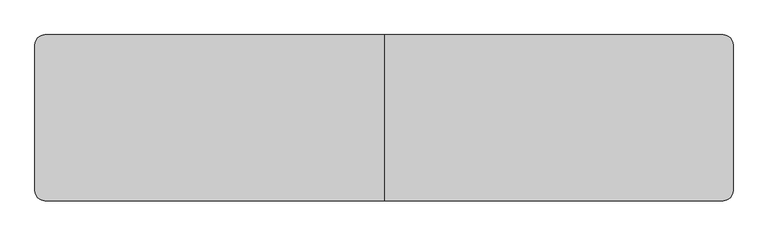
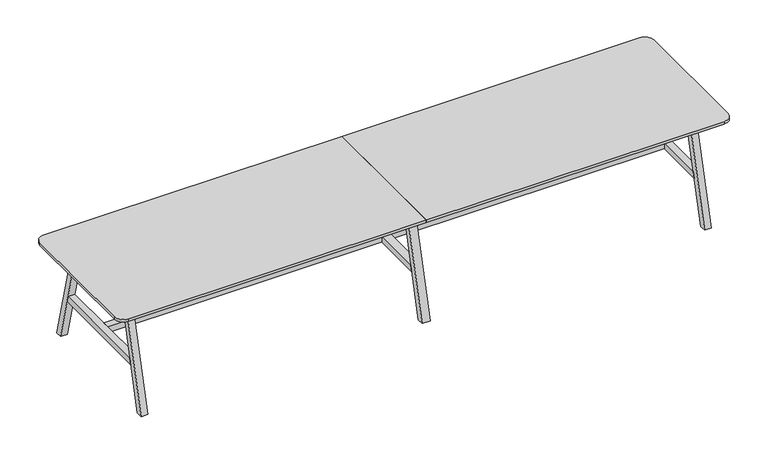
"""IFC4 building model written with IfcOpenShell, lengths in millimetres: furniture geometry, BDG_BossDesign_Tbls_AgentTables6Legs : AGE-DT-6L-4200-1000-3D."""

from ifc_helpers import new_model, si_unit, point, frame, frame_2d, origin, place, context, project, spatial, polyline, circle_curve, trimmed, segment, composite_curve, outline, extrude, source, transform, mapped, element, save


def furniture_ae4a0ddc(model_context):
    return source(origin(), model_context, "Body", "SweptSolid", [
        extrude(outline(polyline([(500.0, 0.0), (454.9999949, 0.0), (285.5, 660.0), (330.5000051, 660.0), (500.0, 0.0)])), frame((-27.5, 0.0, 0.0), z_axis=(1.0, 0.0, 0.0), x_axis=(0.0, 1.0, 0.0)), (0.0, 0.0, 1.0), 55.0),
        extrude(outline(polyline([(-500.0, 0.0), (-330.5000051, 660.0), (-285.5, 660.0), (-454.9999949, 0.0), (-500.0, 0.0)])), frame((-27.5, 0.0, 0.0), z_axis=(1.0, 0.0, 0.0), x_axis=(0.0, 1.0, 0.0)), (0.0, 0.0, 1.0), 55.0),
        extrude(outline(polyline([(377.9545427, 300.0), (-377.9545427, 300.0), (-366.3977249, 345.0), (366.3977249, 345.0), (377.9545427, 300.0)])), frame((-27.5, 0.0, 0.0), z_axis=(1.0, 0.0, 0.0), x_axis=(0.0, 1.0, 0.0)), (0.0, 0.0, 1.0), 55.0),
        extrude(outline(composite_curve([segment(polyline([(0.0, 500.0), (0.0, -500.0), (-2040.0, -500.0)]), True, "CONTINUOUS"), segment(trimmed(circle_curve(frame_2d((-2040.0, -440.0)), 60.0), [point((-2040.0, -500.0))], [point((-2100.0, -440.0))], False, "CARTESIAN"), True, "CONTINUOUS"), segment(polyline([(-2100.0, -440.0), (-2100.0, 440.0)]), True, "CONTINUOUS"), segment(trimmed(circle_curve(frame_2d((-2040.0, 440.0)), 60.0), [point((-2100.0, 440.0))], [point((-2040.0, 500.0))], False, "CARTESIAN"), True, "CONTINUOUS"), segment(polyline([(-2040.0, 500.0), (0.0, 500.0)]), True, "CONTINUOUS")], self_intersect=False)), frame((0.0, 0.0, 722.0), z_axis=(0.0, 0.0, 1.0), x_axis=(1.0, 0.0, 0.0)), (0.0, 0.0, 1.0), 18.0),
        extrude(outline(polyline([(-366.3977249, 345.0), (366.3977249, 345.0), (377.9545427, 300.0), (-377.9545427, 300.0), (-366.3977249, 345.0)])), frame((1905.0, 0.0, 0.0), z_axis=(1.0, 0.0, 0.0), x_axis=(0.0, 1.0, 0.0)), (0.0, 0.0, 1.0), 45.0),
        extrude(outline(polyline([(500.0, 0.0), (454.9999949, 0.0), (285.5, 660.0), (330.5000051, 660.0), (500.0, 0.0)])), frame((-1950.0, 0.0, 0.0), z_axis=(1.0, 0.0, 0.0), x_axis=(0.0, 1.0, 0.0)), (0.0, 0.0, 1.0), 45.0),
        extrude(outline(polyline([(-500.0, 0.0), (-330.5000051, 660.0), (-285.5, 660.0), (-454.9999949, 0.0), (-500.0, 0.0)])), frame((-1950.0, 0.0, 0.0), z_axis=(1.0, 0.0, 0.0), x_axis=(0.0, 1.0, 0.0)), (0.0, 0.0, 1.0), 45.0),
        extrude(outline(polyline([(-366.3977249, 345.0), (366.3977249, 345.0), (377.9545427, 300.0), (-377.9545427, 300.0), (-366.3977249, 345.0)])), frame((-1950.0, 0.0, 0.0), z_axis=(1.0, 0.0, 0.0), x_axis=(0.0, 1.0, 0.0)), (0.0, 0.0, 1.0), 45.0),
        extrude(outline(polyline([(-326.6006165, 634.973938), (-304.2770691, 722.0), (-279.5, 722.0), (-301.8235474, 634.973938), (-326.6006165, 634.973938)])), frame((-1905.0, 0.0, 0.0), z_axis=(1.0, 0.0, 0.0), x_axis=(0.0, 1.0, 0.0)), (0.0, 0.0, 1.0), 3810.0),
        extrude(outline(polyline([(326.6006165, 634.973938), (301.8235474, 634.973938), (279.5, 722.0), (304.2770691, 722.0), (326.6006165, 634.973938)])), frame((-1905.0, 0.0, 0.0), z_axis=(1.0, 0.0, 0.0), x_axis=(0.0, 1.0, 0.0)), (0.0, 0.0, 1.0), 3810.0),
        extrude(outline(polyline([(499.7999878, 0.0), (454.7999827, 0.0), (285.5, 660.0), (330.5000051, 660.0), (499.7999878, 0.0)])), frame((1905.0, 0.0, 0.0), z_axis=(1.0, 0.0, 0.0), x_axis=(0.0, 1.0, 0.0)), (0.0, 0.0, 1.0), 45.0),
        extrude(outline(polyline([(-499.7999878, 0.0), (-330.5000051, 660.0), (-285.5, 660.0), (-454.7999827, 0.0), (-499.7999878, 0.0)])), frame((1905.0, 0.0, 0.0), z_axis=(1.0, 0.0, 0.0), x_axis=(0.0, 1.0, 0.0)), (0.0, 0.0, 1.0), 45.0),
        extrude(outline(polyline([(-27.5, 22.5000305), (-27.5, -22.5000305), (-1905.0, -22.5000305), (-1905.0, 22.5000305), (-27.5, 22.5000305)])), frame((0.0, 0.0, 300.0), z_axis=(0.0, 0.0, 1.0), x_axis=(1.0, 0.0, 0.0)), (0.0, 0.0, 1.0), 45.0),
        extrude(outline(polyline([(27.5, -22.5000305), (27.5, 22.5000305), (1905.0, 22.5000305), (1905.0, -22.5000305), (27.5, -22.5000305)])), frame((0.0, 0.0, 300.0), z_axis=(0.0, 0.0, 1.0), x_axis=(1.0, 0.0, 0.0)), (0.0, 0.0, 1.0), 45.0),
        extrude(outline(composite_curve([segment(trimmed(circle_curve(frame_2d((2040.0, 440.0)), 60.0), [point((2040.0, 500.0))], [point((2100.0, 440.0))], False, "CARTESIAN"), True, "CONTINUOUS"), segment(polyline([(2100.0, 440.0), (2100.0, -440.0)]), True, "CONTINUOUS"), segment(trimmed(circle_curve(frame_2d((2040.0, -440.0)), 60.0), [point((2100.0, -440.0))], [point((2040.0, -500.0))], False, "CARTESIAN"), True, "CONTINUOUS"), segment(polyline([(2040.0, -500.0), (0.0, -500.0), (0.0, 500.0), (2040.0, 500.0)]), True, "CONTINUOUS")], self_intersect=False)), frame((0.0, 0.0, 722.0), z_axis=(0.0, 0.0, 1.0), x_axis=(1.0, 0.0, 0.0)), (0.0, 0.0, 1.0), 18.0),
    ])


if __name__ == "__main__":
    model = new_model("IFC4")
    model_context = context("Model", 3, world=origin())
    ifc_project = project(units=[si_unit("LENGTHUNIT", "METRE", prefix="MILLI")], contexts=[model_context])
    site = spatial("IfcSite", under=ifc_project)
    building = spatial("IfcBuilding", under=site)
    placement = place(None, origin())
    furniture_shape = furniture_ae4a0ddc(model_context)
    element("IfcFurniture", 1, ObjectType="BDG_BossDesign_Tbls_AgentTables6Legs : AGE-DT-6L-4200-1000-3D", at=placement, inside=building, context=model_context, shape_type="MappedRepresentation", body=[
        mapped(furniture_shape, transform((0.0, 0.0, 0.0), x_axis=(1.0, 0.0, 0.0), y_axis=(0.0, 1.0, 0.0), z_axis=(0.0, 0.0, 1.0))),
    ])
    save(model, "model.ifc")
